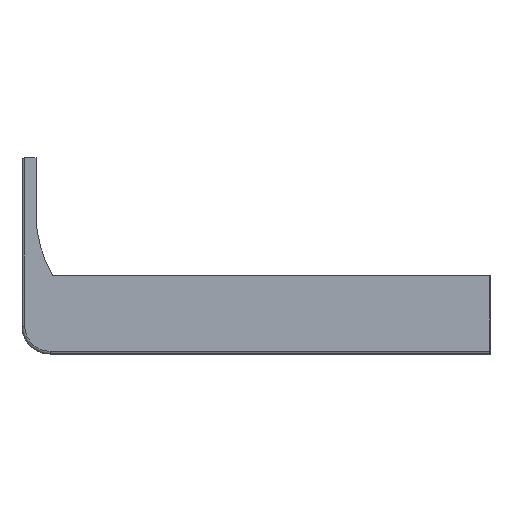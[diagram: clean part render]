
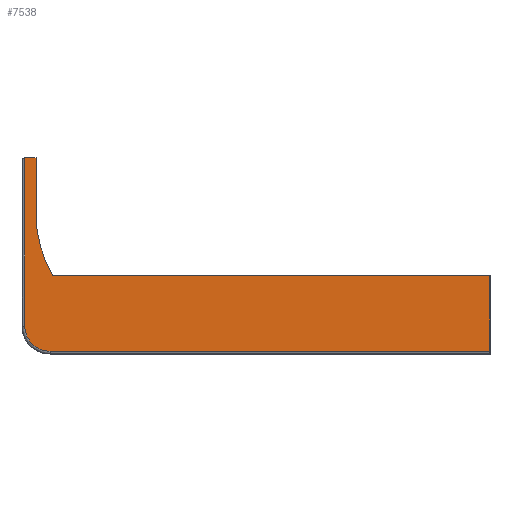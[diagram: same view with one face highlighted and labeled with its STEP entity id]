
A CAD part, left-side view. The second image highlights one B-rep face of the part: STEP entity #7538.
In plain terms, the highlighted planar face has unit normal (-1, 0, 0).
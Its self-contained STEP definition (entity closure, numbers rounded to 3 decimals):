
#299=DIRECTION('',(0.,0.,1.));
#300=VECTOR('',#299,13.5);
#301=CARTESIAN_POINT('',(-46.25,-41.75,0.5));
#302=LINE('',#301,#300);
#2641=DIRECTION('',(0.,0.,-1.));
#2642=VECTOR('',#2641,10.);
#2643=CARTESIAN_POINT('',(-46.25,39.25,35.));
#2644=LINE('',#2643,#2642);
#2645=CARTESIAN_POINT('',(-46.25,17.583,25.));
#2646=DIRECTION('',(-1.,0.,0.));
#2647=DIRECTION('',(0.,1.,0.));
#2648=AXIS2_PLACEMENT_3D('',#2645,#2646,#2647);
#2650=DIRECTION('',(0.,1.,0.));
#2651=VECTOR('',#2650,78.);
#2652=CARTESIAN_POINT('',(-46.25,-41.75,14.));
#2653=LINE('',#2652,#2651);
#2654=DIRECTION('',(0.,1.,0.));
#2655=VECTOR('',#2654,78.5);
#2656=CARTESIAN_POINT('',(-46.25,-41.75,0.5));
#2657=LINE('',#2656,#2655);
#2658=CARTESIAN_POINT('',(-46.25,36.75,5.));
#2659=DIRECTION('',(1.,0.,0.));
#2660=DIRECTION('',(0.,0.,-1.));
#2661=AXIS2_PLACEMENT_3D('',#2658,#2659,#2660);
#2663=DIRECTION('',(0.,0.,1.));
#2664=VECTOR('',#2663,30.);
#2665=CARTESIAN_POINT('',(-46.25,41.25,5.));
#2666=LINE('',#2665,#2664);
#2667=DIRECTION('',(0.,-1.,0.));
#2668=VECTOR('',#2667,2.);
#2669=CARTESIAN_POINT('',(-46.25,41.25,35.));
#2670=LINE('',#2669,#2668);
#3507=CARTESIAN_POINT('',(-46.25,-41.75,14.));
#3508=VERTEX_POINT('',#3507);
#4032=CARTESIAN_POINT('',(-46.25,39.25,35.));
#4034=VERTEX_POINT('',#4032);
#4099=CARTESIAN_POINT('',(-46.25,-41.75,0.5));
#4101=VERTEX_POINT('',#4099);
#4105=CARTESIAN_POINT('',(-46.25,36.75,0.5));
#4106=VERTEX_POINT('',#4105);
#4109=CARTESIAN_POINT('',(-46.25,41.25,5.));
#4110=VERTEX_POINT('',#4109);
#4111=CARTESIAN_POINT('',(-46.25,41.25,35.));
#4112=VERTEX_POINT('',#4111);
#4419=CARTESIAN_POINT('',(-46.25,36.25,14.));
#4420=VERTEX_POINT('',#4419);
#4423=CARTESIAN_POINT('',(-46.25,39.25,25.));
#4424=VERTEX_POINT('',#4423);
#7522=CARTESIAN_POINT('',(-46.25,41.75,0.));
#7523=DIRECTION('',(-1.,0.,0.));
#7524=DIRECTION('',(0.,-1.,0.));
#7525=AXIS2_PLACEMENT_3D('',#7522,#7523,#7524);
#7526=PLANE('',#7525);
#7527=ORIENTED_EDGE('',*,*,#6175,.T.);
#7529=ORIENTED_EDGE('',*,*,#7528,.T.);
#7530=ORIENTED_EDGE('',*,*,#6421,.F.);
#7531=ORIENTED_EDGE('',*,*,#4665,.F.);
#7532=ORIENTED_EDGE('',*,*,#4832,.T.);
#7533=ORIENTED_EDGE('',*,*,#4846,.T.);
#7534=ORIENTED_EDGE('',*,*,#7514,.T.);
#7535=ORIENTED_EDGE('',*,*,#7447,.T.);
#7536=EDGE_LOOP('',(#7527,#7529,#7530,#7531,#7532,#7533,#7534,#7535));
#7537=FACE_OUTER_BOUND('',#7536,.F.);
#7538=ADVANCED_FACE('',(#7537),#7526,.T.);
#2649=CIRCLE('',#2648,21.667);
#2662=CIRCLE('',#2661,4.5);
#4665=EDGE_CURVE('',#4101,#3508,#302,.T.);
#4832=EDGE_CURVE('',#4101,#4106,#2657,.T.);
#4846=EDGE_CURVE('',#4106,#4110,#2662,.T.);
#6175=EDGE_CURVE('',#4034,#4424,#2644,.T.);
#6421=EDGE_CURVE('',#3508,#4420,#2653,.T.);
#7447=EDGE_CURVE('',#4112,#4034,#2670,.T.);
#7514=EDGE_CURVE('',#4110,#4112,#2666,.T.);
#7528=EDGE_CURVE('',#4424,#4420,#2649,.T.);
